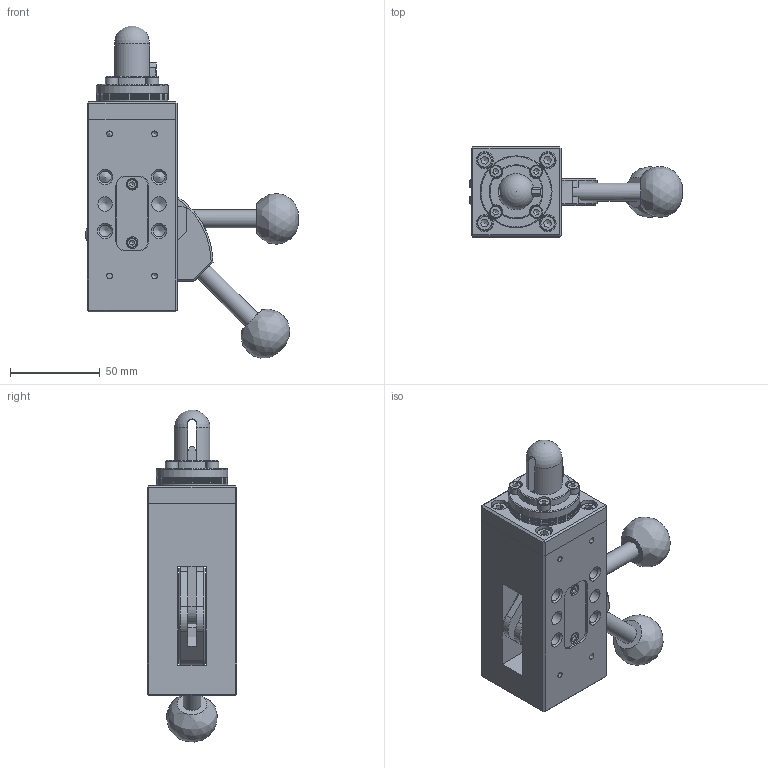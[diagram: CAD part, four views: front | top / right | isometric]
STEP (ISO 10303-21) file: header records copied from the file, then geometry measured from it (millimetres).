
FILE_DESCRIPTION(/* description */ (''),/* implementation_level */ '2;1');
FILE_NAME(/* name */ 'S:\Tom\INVENTOR FILES\AUTOMOTIVE\UNDERBODY CLAMPS\XPCB\SIMPLIFIED MODELS\STEP\XPCB-20-02-NS.stp',/* time_stamp */ '2021-06-08T10:15:40+01:00',/* author */ ('RWilson'),/* organization */ (''),/* preprocessor_version */ 'ST-DEVELOPER v18.1',/* originating_system */ 'Autodesk Inventor 2021',/* authorisation */ '');
FILE_SCHEMA (('AUTOMOTIVE_DESIGN { 1 0 10303 214 3 1 1 }'));
Length unit declared in the file: millimetre
Products named in the file (9): XPCB-20-02; XPCB - BODY; XPCB - HANDLE; XPCB - TOP PLATE; XPCB - 1MM SHIM; XPCB - 0.5MM SHIM; XPCB - 20MM CLAMPING RING & PIN; XPCB - 20MM HOOK; XPCB - BLANKING COVER
Assembly tree (13 placements, depth 2):
  XPCB-20-02
    XPCB - BODY
    XPCB - HANDLE  x2
    XPCB - TOP PLATE
    XPCB - 0.5MM SHIM  x2
    XPCB - 1MM SHIM  x3
    XPCB - 20MM CLAMPING RING & PIN
    XPCB - 20MM HOOK
    XPCB - BLANKING COVER  x2
Bounding box: 118.38 x 50 x 184.64 mm (x, y, z)
Volume: 338912.8 mm3; surface area: 102538.8 mm2
Topology: 13 solids, 23 shells, 529 faces, 1407 edges, 940 vertices
Faces by surface type: plane 255, cylinder 148, cone 105, torus 14, bspline 6, sphere 1
Full cylindrical faces by diameter (mm): 2.459 x4, 3 x8, 3.2 x4, 3.242 x8, 4.917 x3, 5.5 x4, 6 x3, 6.5 x4, 6.6 x3, 6.647 x12, 7 x4, 8 x6, 8.376 x2, 8.5 x4, 9.5 x4, 10 x5, 40 x6
Entity records: 13383 total; most frequent: CARTESIAN_POINT 2663, DIRECTION 2255, ORIENTED_EDGE 2132, EDGE_CURVE 1066, AXIS2_PLACEMENT_3D 862, VERTEX_POINT 746, LINE 531, VECTOR 531
